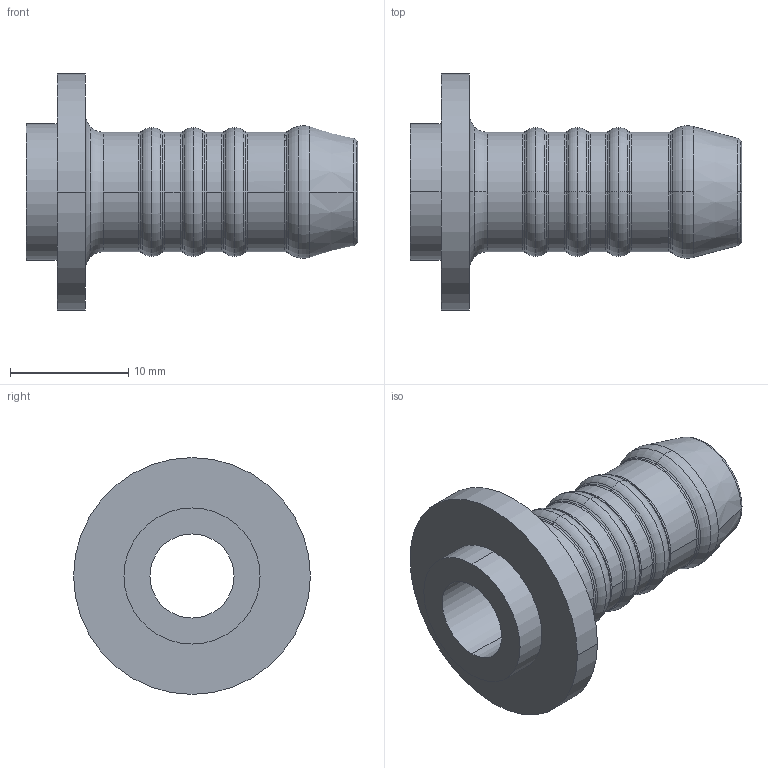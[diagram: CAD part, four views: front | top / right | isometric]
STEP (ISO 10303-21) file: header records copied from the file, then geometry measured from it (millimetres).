
FILE_DESCRIPTION((''),'2;1');
FILE_NAME('_MODEL2','2025-12-08T14:09:28',('123'),(''),'CREO PARAMETRIC BY PTC INC, 2020053','CREO PARAMETRIC BY PTC INC, 2020053','');
FILE_SCHEMA(('CONFIG_CONTROL_DESIGN'));
Length unit declared in the file: millimetre
Products named in the file (1): _MODEL2
Bounding box: 28 x 20 x 20 mm (x, y, z)
Volume: 1842.5 mm3; surface area: 2145.9 mm2
Topology: 1 solids, 1 shells, 76 faces, 173 edges, 101 vertices
Faces by surface type: torus 56, cylinder 14, plane 4, cone 2
Entity records: 2232 total; most frequent: DIRECTION 482, CARTESIAN_POINT 350, ORIENTED_EDGE 346, AXIS2_PLACEMENT_3D 233, EDGE_CURVE 173, CIRCLE 157, VERTEX_POINT 101, EDGE_LOOP 80
